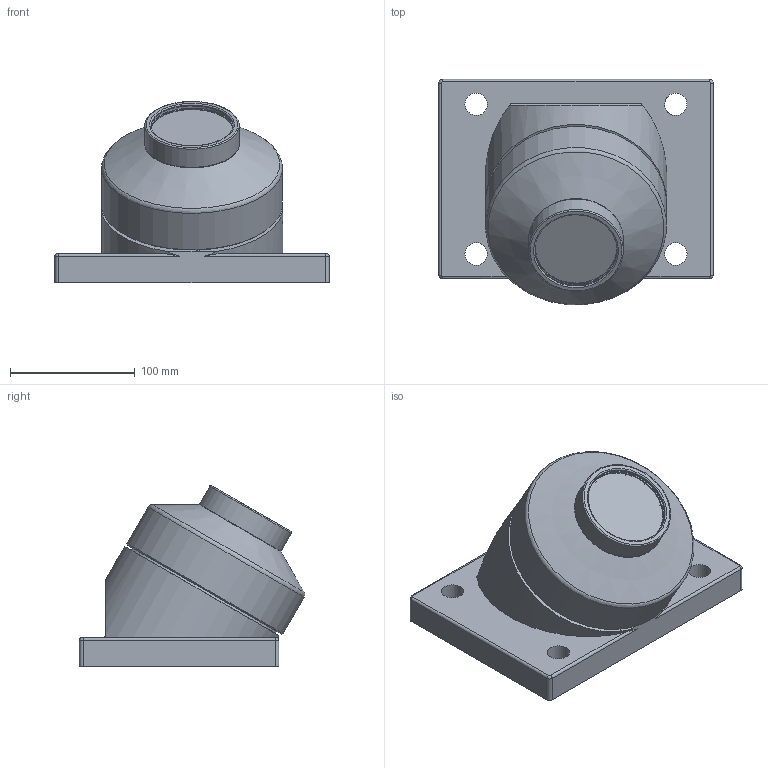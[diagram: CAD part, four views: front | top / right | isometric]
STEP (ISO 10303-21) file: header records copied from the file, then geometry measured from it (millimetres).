
FILE_DESCRIPTION(/* description */ (''),/* implementation_level */ '2;1');
FILE_NAME(/* name */ 'Z:\34-Tei\01-web 3Dデータ\SW車輪\SW-130-K.stp',/* time_stamp */ '2015-03-17T16:44:53+09:00',/* author */ ('yamaki'),/* organization */ (''),/* preprocessor_version */ 'ST-DEVELOPER v15.6',/* originating_system */ 'Autodesk Inventor 2015',/* authorisation */ '');
FILE_SCHEMA (('AUTOMOTIVE_DESIGN { 1 0 10303 214 3 1 1 }'));
Length unit declared in the file: centimetre
Products named in the file (1): SW-130-K
Bounding box: 220 x 180.7 x 145.16 mm (x, y, z)
Volume: 1941621.3 mm3; surface area: 216209 mm2
Topology: 1 solids, 3 shells, 107 faces, 214 edges, 135 vertices
Faces by surface type: cylinder 43, plane 35, cone 15, torus 10, bspline 4
Full cylindrical faces by diameter (mm): 4 x1, 8 x1, 18 x4, 25 x2, 29 x2, 30 x2, 36 x1, 37 x1, 55 x1, 56 x1, 58 x2, 60 x1, 62 x1, 62.1 x1, 63 x1, 65.2 x1, 66 x2, 68 x1, 70 x1, 75.718 x1, 105.1 x1, 118 x1, 119 x1, 145 x1
Entity records: 2699 total; most frequent: CARTESIAN_POINT 532, DIRECTION 457, ORIENTED_EDGE 290, AXIS2_PLACEMENT_3D 216, EDGE_LOOP 198, EDGE_CURVE 145, VERTEX_POINT 123, STYLED_ITEM 108
